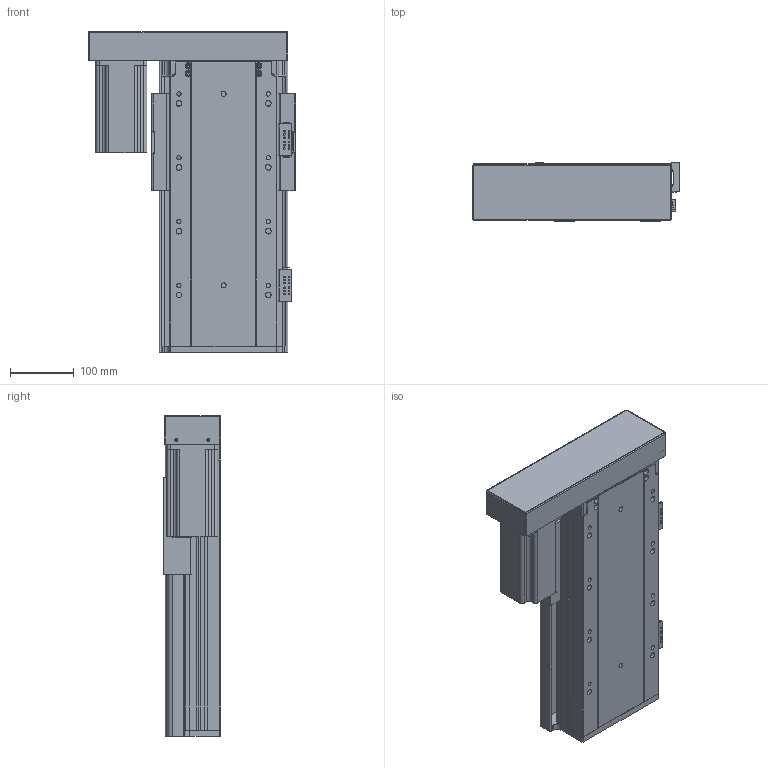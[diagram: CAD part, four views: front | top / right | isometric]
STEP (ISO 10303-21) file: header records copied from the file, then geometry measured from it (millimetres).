
FILE_DESCRIPTION (( 'STEP AP203' ), '1' );
FILE_NAME ('RY170FB-L2020-300-LK.SLDASM_200.step', '2021-02-23T03:02:20', ( '盈信电脑' ), ( '东莞市道滘镇水果街19号' ), 'SwSTEP 2.0', 'SolidWorks 2012', '' );
FILE_SCHEMA (( 'CONFIG_CONTROL_DESIGN' ));
Length unit declared in the file: millimetre
Products named in the file (16): RY170FB-酘衵殏萇儂欶750W; RY170FB-L2020-300-LK.SLDASM_200; RY140-674嫖萇耀輸; RY170FB-左右折电机安装板750W; RY140FB-674嫖萇覜茼え; 覜茼ん674; RY140直线电机感应器674光电安装座; RY170FB-300蛌殏奻裔-LK_200; 怢湛750W萇儂ㄗ80遺ㄘ; RY170FB-转折电机端支撑座(7002); RY170FB-綴裔啣; RY170FB-铝滑块(25丝杆）; RY170FB-300蛌殏倰第菁釱-LK_200; 滅袉蝶18-28; 滅袉蝶18-10
Assembly tree (18 placements, depth 3):
  RY170FB-L2020-300-LK.SLDASM_200
    RY170FB-300蛌殏倰第菁釱-LK_200
    滅袉蝶18-28
    滅袉蝶18-10
    RY170FB-转折电机端支撑座(7002)
    怢湛750W萇儂ㄗ80遺ㄘ
    RY170FB-铝滑块(25丝杆）
    RY170FB-綴裔啣
    RY170FB-300蛌殏奻裔-LK_200
    RY140-674嫖萇耀輸
      覜茼ん674  x2
      RY140直线电机感应器674光电安装座
    RY140-674嫖萇耀輸
      覜茼ん674
      RY140直线电机感应器674光电安装座
    RY140FB-674嫖萇覜茼え
    RY170FB-左右折电机安装板750W
    RY170FB-酘衵殏萇儂欶750W
Bounding box: 323.95 x 90.5 x 502.7 mm (x, y, z)
Volume: 4252433.7 mm3; surface area: 1152176.7 mm2
Topology: 16 solids, 16 shells, 1413 faces, 3934 edges, 2510 vertices
Faces by surface type: cylinder 701, plane 584, cone 120, bspline 8
Entity records: 43399 total; most frequent: CARTESIAN_POINT 9657, ORIENTED_EDGE 6680, DIRECTION 6672, EDGE_CURVE 3340, AXIS2_PLACEMENT_3D 2407, VERTEX_POINT 2190, LINE 1858, VECTOR 1858
